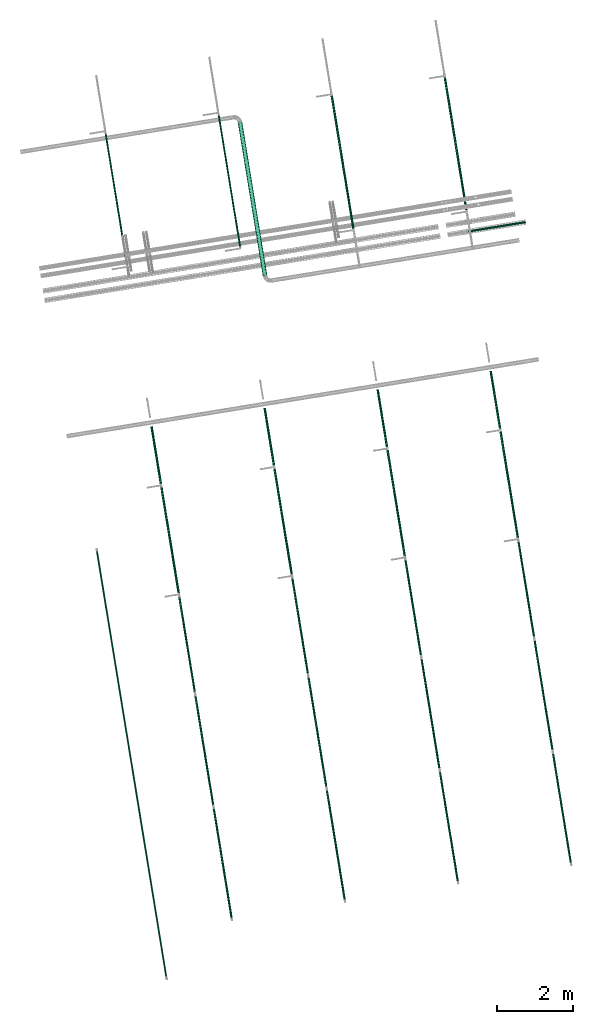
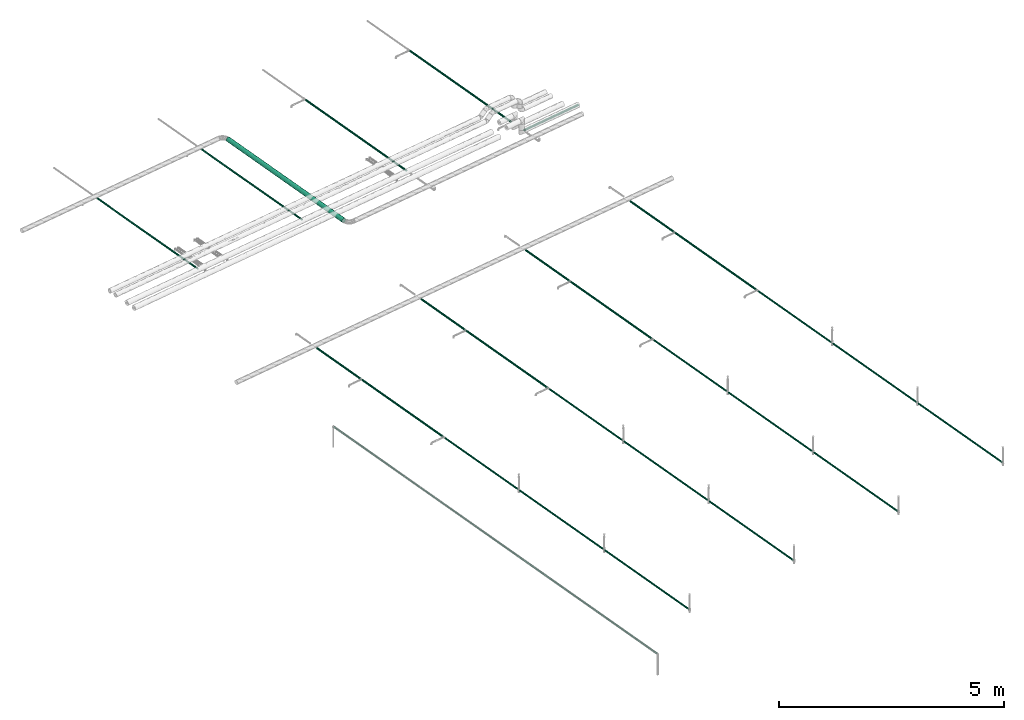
# One storey, part 18 of 56: 27 flow segments.
"""IFC2X3 building model written with IfcOpenShell, lengths in millimetres."""

import ifcopenshell
import ifcopenshell.guid

model = None  # the IFC model being written
_history = None  # IfcOwnerHistory: only IFC2X3 demands one
_inside = {}  # id of a spatial element -> (the spatial element, [elements in it])
_under = {}  # id of a project, library or spatial element -> (it, [spatial elements below it])
_declared = {}  # id of a project -> (the project, [libraries it declares])
_typed = {}  # id of a type object -> (the type object, [elements of that type])
_made_of = {}  # id of a material, layer set ... -> (it, [elements and type objects made of it])


def new_model(schema):
    """Start an empty IFC model of exactly this schema.

    Asked for "IFC4X3", IfcOpenShell would pick the latest addendum, in which some entities
    have other attributes; the version numbers below select the first issue.
    IFC2X3 requires an IfcOwnerHistory on every rooted entity: one is made here for all.
    """
    global model, _history
    if schema == "IFC4X3":
        model = ifcopenshell.file(schema_version=(4, 3, 0, 0))
    else:
        model = ifcopenshell.file(schema=schema)
    _inside.clear()
    _under.clear()
    _declared.clear()
    _typed.clear()
    _made_of.clear()
    _history = None
    if model.schema == "IFC2X3":
        org = make("IfcOrganization", Name="unknown")
        user = make(
            "IfcPersonAndOrganization",
            ThePerson=make("IfcPerson", FamilyName="unknown"),
            TheOrganization=org,
        )
        app = make(
            "IfcApplication",
            ApplicationDeveloper=org,
            Version="unknown",
            ApplicationFullName="unknown",
            ApplicationIdentifier="unknown",
        )
        _history = make(
            "IfcOwnerHistory",
            OwningUser=user,
            OwningApplication=app,
            ChangeAction="ADDED",
            CreationDate=0,
        )
    return model


def make(cls, **values):
    """One entity of the class cls with the attributes given. An attribute that is None is left unset."""
    return model.create_entity(
        cls, **{name: value for name, value in values.items() if value is not None}
    )


def entity(cls, *values):
    """Any entity or typed value of the class cls, its attributes in the order of the schema. None: left unset."""
    e = model.create_entity(cls)
    for i, value in enumerate(values):
        if value is not None:
            e[i] = value
    return e


def rooted(cls, **values):
    """An entity with a GlobalId (a new one), such as an element, a storey or a relation."""
    return make(cls, GlobalId=ifcopenshell.guid.new(), OwnerHistory=_history, **values)


def si_unit(unit_type, name, prefix=None):
    """IfcSIUnit, for example si_unit("LENGTHUNIT", "METRE", prefix="MILLI")."""
    return make("IfcSIUnit", UnitType=unit_type, Prefix=prefix, Name=name)


def converted_unit(unit_type, name, factor, base, dimensions=None, offset=None):
    """IfcConversionBasedUnit, such as the inch: factor (a typed value) times the base unit."""
    return make(
        "IfcConversionBasedUnit"
        if offset is None
        else "IfcConversionBasedUnitWithOffset",
        ConversionOffset=offset,
        Dimensions=None
        if dimensions is None
        else entity("IfcDimensionalExponents", *dimensions),
        UnitType=unit_type,
        Name=name,
        ConversionFactor=make(
            "IfcMeasureWithUnit", ValueComponent=factor, UnitComponent=base
        ),
    )


def derived_unit(unit_type, elements):
    """IfcDerivedUnit: a product of units, each with its exponent."""
    return make(
        "IfcDerivedUnit",
        Elements=[
            make("IfcDerivedUnitElement", Unit=unit, Exponent=power)
            for unit, power in elements
        ],
        UnitType=unit_type,
    )


def assignment(units):
    """IfcUnitAssignment: the units of a project."""
    return None if units is None else make("IfcUnitAssignment", Units=units)


def point(xyz):
    """IfcCartesianPoint."""
    return None if xyz is None else make("IfcCartesianPoint", Coordinates=xyz)


def direction(xyz):
    """IfcDirection."""
    return None if xyz is None else make("IfcDirection", DirectionRatios=xyz)


def frame(location, z_axis=None, x_axis=None):
    """IfcAxis2Placement3D, a coordinate frame: its origin and axes. An axis left out is left unset."""
    return make(
        "IfcAxis2Placement3D",
        Location=point(location),
        Axis=direction(z_axis),
        RefDirection=direction(x_axis),
    )


def frame_2d(location, x_axis=None):
    """IfcAxis2Placement2D, a coordinate frame in the plane: its origin and x axis."""
    return make(
        "IfcAxis2Placement2D", Location=point(location), RefDirection=direction(x_axis)
    )


def origin():
    """The frame at (0, 0, 0) with its axes left unset."""
    return frame((0.0, 0.0, 0.0))


def origin_with_axes():
    """The frame at (0, 0, 0) with the z axis (0, 0, 1) and the x axis (1, 0, 0) written out."""
    return frame((0.0, 0.0, 0.0), z_axis=(0.0, 0.0, 1.0), x_axis=(1.0, 0.0, 0.0))


def origin_2d_with_axis():
    """The frame at (0, 0) in the plane with the x axis (1, 0) written out."""
    return frame_2d((0.0, 0.0), x_axis=(1.0, 0.0))


def place(relative_to, where):
    """IfcLocalPlacement: puts the frame where relative to a parent placement (None: the world)."""
    return make(
        "IfcLocalPlacement", PlacementRelTo=relative_to, RelativePlacement=where
    )


def context(
    kind, dimensions, precision=None, world=None, true_north=None, identifier=None
):
    """IfcGeometricRepresentationContext, for example the 3D "Model" context."""
    return make(
        "IfcGeometricRepresentationContext",
        ContextIdentifier=identifier,
        ContextType=kind,
        CoordinateSpaceDimension=dimensions,
        Precision=precision,
        WorldCoordinateSystem=world,
        TrueNorth=true_north,
    )


def subcontext(parent, identifier, kind, view, scale=None):
    """IfcGeometricRepresentationSubContext, for example "Body" below "Model"."""
    return make(
        "IfcGeometricRepresentationSubContext",
        ContextIdentifier=identifier,
        ContextType=kind,
        ParentContext=parent,
        TargetScale=scale,
        TargetView=view,
    )


def project(units=None, contexts=None):
    """IfcProject with its units and contexts."""
    return rooted(
        "IfcProject",
        Name="project",
        RepresentationContexts=contexts,
        UnitsInContext=assignment(units),
    )


def spatial(cls, under=None, at=None, **own):
    """A site, building, storey or space (cls), placed at a placement, below another one or the project."""
    s = rooted(cls, ObjectPlacement=at, **own)
    if under is not None:
        _under.setdefault(under.id(), (under, []))[1].append(s)
    return s


def profile(cls, at=None, kind="AREA", **sizes):
    """A parametric profile (cls). Its sizes go by their IFC names, for example OverallWidth=200.0."""
    return make(cls, ProfileType=kind, Position=at, **sizes)


def circle(**sizes):
    """IfcCircleProfileDef."""
    return profile("IfcCircleProfileDef", **sizes)


def extrude(swept, where, along, depth):
    """IfcExtrudedAreaSolid: the profile swept, set in the frame where, extruded along a direction by depth."""
    return make(
        "IfcExtrudedAreaSolid",
        SweptArea=swept,
        Position=where,
        ExtrudedDirection=direction(along),
        Depth=depth,
    )


def shape(context_of_items, identifier, shape_type, items):
    """IfcShapeRepresentation: the items that make up one representation, for example the "Body"."""
    return make(
        "IfcShapeRepresentation",
        ContextOfItems=context_of_items,
        RepresentationIdentifier=identifier,
        RepresentationType=shape_type,
        Items=items,
    )


def material(Name=None, Category=None):
    """IfcMaterial."""
    return make("IfcMaterial", Name=Name, Category=Category)


def made_of(thing, what):
    """Note that an element or type object is made of a material, layer set ...; save() writes the relation."""
    if what is not None:
        _made_of.setdefault(what.id(), (what, []))[1].append(thing)
    return thing


def type_object(cls, material=None, **own):
    """A type object (cls), such as IfcWallType, which elements share."""
    return made_of(rooted(cls, **own), material)


def element(
    cls,
    number,
    at=None,
    inside=None,
    cuts=None,
    type_object=None,
    material=None,
    context=None,
    identifier="Body",
    shape_type=None,
    held_by="IfcProductDefinitionShape",
    body=None,
    shapes=None,
    **own,
):
    """One element of the class cls, such as IfcWall. Its Tag is "e" and its number.

    at: its placement. inside: the storey or other place that contains it. cuts: it is an
    opening in that element (IfcRelVoidsElement). A single representation is given by context,
    identifier, shape_type and body (its items); several are given by shapes. held_by: the class
    of the entity that holds the representations. save() writes the other relations.
    """
    e = rooted(cls, Tag="e%d" % number, ObjectPlacement=at, **own)
    if body is not None:
        shapes = [shape(context, identifier, shape_type, body)]
    if shapes is not None:
        e.Representation = make(held_by, Representations=shapes)
    if inside is not None:
        _inside.setdefault(inside.id(), (inside, []))[1].append(e)
    if cuts is not None:
        rooted(
            "IfcRelVoidsElement", RelatingBuildingElement=cuts, RelatedOpeningElement=e
        )
    if type_object is not None:
        _typed.setdefault(type_object.id(), (type_object, []))[1].append(e)
    return made_of(e, material)


def aggregate(whole, parts):
    """IfcRelAggregates: a whole, such as a stair, and the parts it consists of."""
    return rooted("IfcRelAggregates", RelatingObject=whole, RelatedObjects=parts)


def save(model, path):
    """Write the relations noted so far, then the file.

    IfcRelAggregates (storeys below a building ...), IfcRelContainedInSpatialStructure (elements
    in a storey), IfcRelDefinesByType, IfcRelAssociatesMaterial and IfcRelDeclares: one each for
    every whole, place, type object, material and project.
    """
    for whole, parts in _under.values():
        aggregate(whole, parts)
    for where, things in _inside.values():
        rooted(
            "IfcRelContainedInSpatialStructure",
            RelatedElements=things,
            RelatingStructure=where,
        )
    for kind, things in _typed.values():
        rooted("IfcRelDefinesByType", RelatedObjects=things, RelatingType=kind)
    for what, things in _made_of.values():
        rooted("IfcRelAssociatesMaterial", RelatedObjects=things, RelatingMaterial=what)
    for by, libraries in _declared.values():
        rooted("IfcRelDeclares", RelatingContext=by, RelatedDefinitions=libraries)
    model.write(path)


model = new_model("IFC2X3")

# Units and contexts
model_context = context("Model", 3, precision=0.01, world=origin(), true_north=direction((6.12323399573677e-17, 1.0)))
plan_context = context("Plan", 3, precision=1e-05, world=origin_with_axes())
body_context = subcontext(model_context, "Body", "Model", "MODEL_VIEW")
ifc_project = project(units=[converted_unit("PLANEANGLEUNIT", "DEGREE", entity("IfcPositiveLengthMeasure", 0.0174532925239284), si_unit("PLANEANGLEUNIT", "RADIAN"), dimensions=[0, 0, 0, 0, 0, 0, 0]), si_unit("AREAUNIT", "SQUARE_METRE"), si_unit("LENGTHUNIT", "METRE", prefix="MILLI"), si_unit("MASSUNIT", "GRAM", prefix="KILO"), si_unit("POWERUNIT", "WATT"), si_unit("PRESSUREUNIT", "PASCAL", prefix="KILO"), si_unit("FORCEUNIT", "NEWTON", prefix="KILO"), si_unit("ELECTRICVOLTAGEUNIT", "VOLT"), si_unit("ELECTRICCURRENTUNIT", "AMPERE"), si_unit("THERMODYNAMICTEMPERATUREUNIT", "DEGREE_CELSIUS"), si_unit("TIMEUNIT", "SECOND"), si_unit("VOLUMEUNIT", "CUBIC_METRE"), derived_unit("LINEARVELOCITYUNIT", [(si_unit("LENGTHUNIT", "METRE"), 1), (si_unit("TIMEUNIT", "SECOND"), -1)]), derived_unit("VOLUMETRICFLOWRATEUNIT", [(si_unit("VOLUMEUNIT", "CUBIC_METRE"), 1), (si_unit("TIMEUNIT", "SECOND"), -1)]), derived_unit("THERMALTRANSMITTANCEUNIT", [(si_unit("POWERUNIT", "WATT"), 1), (si_unit("THERMODYNAMICTEMPERATUREUNIT", "KELVIN"), -1), (si_unit("AREAUNIT", "SQUARE_METRE"), -1)]), derived_unit("SOUNDPRESSUREUNIT", [(si_unit("PRESSUREUNIT", "PASCAL"), 1)])], contexts=[model_context, plan_context])

# Site, building, storey
site_placement = place(None, frame((-3.09682673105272e-06, 1.93776733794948e-05, 0.0), z_axis=(0.0, 0.0, 1.0), x_axis=(-0.160806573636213, 0.986985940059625, 0.0)))
site = spatial("IfcSite", under=ifc_project, at=site_placement, Name="Default", CompositionType="ELEMENT")
building_placement = place(site_placement, frame((0.0, 0.0, 0.0), z_axis=(0.0, 0.0, 1.0), x_axis=(1.0, -2.77555756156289e-17, 0.0)))
building = spatial("IfcBuilding", under=site, at=building_placement, Name="Bygning (endres i Project Information)", CompositionType="ELEMENT")
storey_placement = place(building_placement, frame((0.0, 0.0, 51360.0000000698), z_axis=(0.0, 0.0, 1.0), x_axis=(1.0, -2.77555756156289e-17, 0.0)))
storey = spatial("IfcBuildingStorey", under=building, at=storey_placement, Name="H01-Nivå D+0,36", CompositionType="ELEMENT", Elevation=51360.0000000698)

# Flow segments
ifc_material_1 = material(Name="3320.001")
pipe_segment_type_1 = type_object("IfcPipeSegmentType", Name="Pipe Types:Stålrør sveist og gjenget", PredefinedType="NOTDEFINED", material=ifc_material_1)
flow_segment_1_placement = place(storey_placement, frame((0.0, 0.0, 0.0), z_axis=(0.0, 0.0, 1.0), x_axis=(1.0, -2.77555756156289e-17, 0.0)))
element("IfcFlowSegment", 1, at=flow_segment_1_placement, inside=storey, type_object=pipe_segment_type_1, Name="Pipe Types:Stålrør sveist og gjenget", ObjectType="Pipe Types:Stålrør sveist og gjenget", context=body_context, shape_type="SweptSolid", body=[
    extrude(circle(Radius=21.2000007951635, at=origin_2d_with_axis()), frame((997265.863254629, -395286.663841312, 3370.0), z_axis=(1.0, 0.0, 0.0), x_axis=(0.0, -1.0, 0.0)), (0.0, 0.0, 1.0), 2940.80000000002),
])
flow_segment_2_placement = place(storey_placement, frame((0.0, 0.0, 0.0), z_axis=(0.0, 0.0, 1.0), x_axis=(1.0, -2.77555756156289e-17, 0.0)))
element("IfcFlowSegment", 2, at=flow_segment_2_placement, inside=storey, type_object=pipe_segment_type_1, Name="Pipe Types:Stålrør sveist og gjenget", ObjectType="Pipe Types:Stålrør sveist og gjenget", context=body_context, shape_type="SweptSolid", body=[
    extrude(circle(Radius=21.2000007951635, at=origin_2d_with_axis()), frame((994265.86325463, -395286.663841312, 3370.0), z_axis=(1.0, 0.0, 0.0), x_axis=(0.0, 1.0, 0.0)), (0.0, 0.0, 1.0), 2940.79999999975),
])
flow_segment_3_placement = place(storey_placement, frame((0.0, 0.0, 0.0), z_axis=(0.0, 0.0, 1.0), x_axis=(1.0, -2.77555756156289e-17, 0.0)))
element("IfcFlowSegment", 3, at=flow_segment_3_placement, inside=storey, type_object=pipe_segment_type_1, Name="Pipe Types:Stålrør sveist og gjenget", ObjectType="Pipe Types:Stålrør sveist og gjenget", context=body_context, shape_type="SweptSolid", body=[
    extrude(circle(Radius=21.2000007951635, at=origin_2d_with_axis()), frame((1000265.86325463, -395286.663841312, 3370.0), z_axis=(1.0, 0.0, 0.0), x_axis=(0.0, -1.0, 0.0)), (0.0, 0.0, 1.0), 2568.47231975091),
])
flow_segment_4_placement = place(storey_placement, frame((0.0, 0.0, 0.0), z_axis=(0.0, 0.0, 1.0), x_axis=(1.0, -2.77555756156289e-17, 0.0)))
element("IfcFlowSegment", 4, at=flow_segment_4_placement, inside=storey, type_object=pipe_segment_type_1, Name="Pipe Types:Stålrør sveist og gjenget", ObjectType="Pipe Types:Stålrør sveist og gjenget", context=body_context, shape_type="SweptSolid", body=[
    extrude(circle(Radius=24.1499996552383, at=origin_2d_with_axis()), frame((1002899.53557438, -395286.663841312, 3370.0), z_axis=(1.0, 0.0, 0.0), x_axis=(0.0, -1.0, 0.0)), (0.0, 0.0, 1.0), 2846.7999999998),
])
flow_segment_5_placement = place(storey_placement, frame((0.0, 0.0, 0.0), z_axis=(0.0, 0.0, 1.0), x_axis=(1.0, -2.77555756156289e-17, 0.0)))
element("IfcFlowSegment", 5, at=flow_segment_5_placement, inside=storey, type_object=pipe_segment_type_1, Name="Pipe Types:Stålrør sveist og gjenget", ObjectType="Pipe Types:Stålrør sveist og gjenget", context=body_context, shape_type="SweptSolid", body=[
    extrude(circle(Radius=24.1499996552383, at=origin_2d_with_axis()), frame((1005791.53557438, -395286.663841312, 3370.0), z_axis=(1.0, 0.0, 0.0), x_axis=(0.0, -1.0, 0.0)), (0.0, 0.0, 1.0), 1537.36245727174),
])
flow_segment_6_placement = place(storey_placement, frame((0.0, 0.0, 0.0), z_axis=(0.0, 0.0, 1.0), x_axis=(1.0, -2.77555756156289e-17, 0.0)))
element("IfcFlowSegment", 6, at=flow_segment_6_placement, inside=storey, type_object=pipe_segment_type_1, Name="Pipe Types:Stålrør sveist og gjenget", ObjectType="Pipe Types:Stålrør sveist og gjenget", context=body_context, shape_type="SweptSolid", body=[
    extrude(circle(Radius=21.2000007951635, at=origin_2d_with_axis()), frame((997265.863254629, -392286.663841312, 3370.0), z_axis=(1.0, 0.0, 0.0), x_axis=(0.0, -1.0, 0.0)), (0.0, 0.0, 1.0), 2940.80000000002),
])
flow_segment_7_placement = place(storey_placement, frame((0.0, 0.0, 0.0), z_axis=(0.0, 0.0, 1.0), x_axis=(1.0, -2.77555756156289e-17, 0.0)))
element("IfcFlowSegment", 7, at=flow_segment_7_placement, inside=storey, type_object=pipe_segment_type_1, Name="Pipe Types:Stålrør sveist og gjenget", ObjectType="Pipe Types:Stålrør sveist og gjenget", context=body_context, shape_type="SweptSolid", body=[
    extrude(circle(Radius=21.2000007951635, at=origin_2d_with_axis()), frame((994265.86325463, -392286.663841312, 3370.0), z_axis=(1.0, 0.0, 0.0), x_axis=(0.0, 1.0, 0.0)), (0.0, 0.0, 1.0), 2940.79999999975),
])
flow_segment_8_placement = place(storey_placement, frame((0.0, 0.0, 0.0), z_axis=(0.0, 0.0, 1.0), x_axis=(1.0, -2.77555756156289e-17, 0.0)))
element("IfcFlowSegment", 8, at=flow_segment_8_placement, inside=storey, type_object=pipe_segment_type_1, Name="Pipe Types:Stålrør sveist og gjenget", ObjectType="Pipe Types:Stålrør sveist og gjenget", context=body_context, shape_type="SweptSolid", body=[
    extrude(circle(Radius=21.2000007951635, at=origin_2d_with_axis()), frame((1000265.86325463, -392286.663841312, 3370.0), z_axis=(1.0, 0.0, 0.0), x_axis=(0.0, -1.0, 0.0)), (0.0, 0.0, 1.0), 2568.47231975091),
])
flow_segment_9_placement = place(storey_placement, frame((0.0, 0.0, 0.0), z_axis=(0.0, 0.0, 1.0), x_axis=(1.0, -2.77555756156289e-17, 0.0)))
element("IfcFlowSegment", 9, at=flow_segment_9_placement, inside=storey, type_object=pipe_segment_type_1, Name="Pipe Types:Stålrør sveist og gjenget", ObjectType="Pipe Types:Stålrør sveist og gjenget", context=body_context, shape_type="SweptSolid", body=[
    extrude(circle(Radius=24.1499996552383, at=origin_2d_with_axis()), frame((1002899.53557438, -392286.663841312, 3370.0), z_axis=(1.0, 0.0, 0.0), x_axis=(0.0, -1.0, 0.0)), (0.0, 0.0, 1.0), 2846.7999999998),
])
flow_segment_10_placement = place(storey_placement, frame((0.0, 0.0, 0.0), z_axis=(0.0, 0.0, 1.0), x_axis=(1.0, -2.77555756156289e-17, 0.0)))
element("IfcFlowSegment", 10, at=flow_segment_10_placement, inside=storey, type_object=pipe_segment_type_1, Name="Pipe Types:Stålrør sveist og gjenget", ObjectType="Pipe Types:Stålrør sveist og gjenget", context=body_context, shape_type="SweptSolid", body=[
    extrude(circle(Radius=24.1499996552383, at=origin_2d_with_axis()), frame((1005791.53557438, -392286.663841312, 3370.0), z_axis=(1.0, 0.0, 0.0), x_axis=(0.0, -1.0, 0.0)), (0.0, 0.0, 1.0), 1537.36245727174),
])
flow_segment_11_placement = place(storey_placement, frame((0.0, 0.0, 0.0), z_axis=(0.0, 0.0, 1.0), x_axis=(1.0, -2.77555756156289e-17, 0.0)))
element("IfcFlowSegment", 11, at=flow_segment_11_placement, inside=storey, type_object=pipe_segment_type_1, Name="Pipe Types:Stålrør sveist og gjenget", ObjectType="Pipe Types:Stålrør sveist og gjenget", context=body_context, shape_type="SweptSolid", body=[
    extrude(circle(Radius=21.2000007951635, at=origin_2d_with_axis()), frame((997265.863254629, -389286.663841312, 3370.0), z_axis=(1.0, 0.0, 0.0), x_axis=(0.0, -1.0, 0.0)), (0.0, 0.0, 1.0), 2940.80000000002),
])
flow_segment_12_placement = place(storey_placement, frame((0.0, 0.0, 0.0), z_axis=(0.0, 0.0, 1.0), x_axis=(1.0, -2.77555756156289e-17, 0.0)))
element("IfcFlowSegment", 12, at=flow_segment_12_placement, inside=storey, type_object=pipe_segment_type_1, Name="Pipe Types:Stålrør sveist og gjenget", ObjectType="Pipe Types:Stålrør sveist og gjenget", context=body_context, shape_type="SweptSolid", body=[
    extrude(circle(Radius=21.2000007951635, at=origin_2d_with_axis()), frame((994265.86325463, -389286.663841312, 3370.0), z_axis=(1.0, 0.0, 0.0), x_axis=(0.0, 1.0, 0.0)), (0.0, 0.0, 1.0), 2940.79999999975),
])
flow_segment_13_placement = place(storey_placement, frame((0.0, 0.0, 0.0), z_axis=(0.0, 0.0, 1.0), x_axis=(1.0, -2.77555756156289e-17, 0.0)))
element("IfcFlowSegment", 13, at=flow_segment_13_placement, inside=storey, type_object=pipe_segment_type_1, Name="Pipe Types:Stålrør sveist og gjenget", ObjectType="Pipe Types:Stålrør sveist og gjenget", context=body_context, shape_type="SweptSolid", body=[
    extrude(circle(Radius=21.2000007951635, at=origin_2d_with_axis()), frame((1000265.86325463, -389286.663841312, 3370.0), z_axis=(1.0, 0.0, 0.0), x_axis=(0.0, -1.0, 0.0)), (0.0, 0.0, 1.0), 2568.47231975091),
])
flow_segment_14_placement = place(storey_placement, frame((0.0, 0.0, 0.0), z_axis=(0.0, 0.0, 1.0), x_axis=(1.0, -2.77555756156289e-17, 0.0)))
element("IfcFlowSegment", 14, at=flow_segment_14_placement, inside=storey, type_object=pipe_segment_type_1, Name="Pipe Types:Stålrør sveist og gjenget", ObjectType="Pipe Types:Stålrør sveist og gjenget", context=body_context, shape_type="SweptSolid", body=[
    extrude(circle(Radius=24.1499996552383, at=origin_2d_with_axis()), frame((1002899.53557438, -389286.663841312, 3370.0), z_axis=(1.0, 0.0, 0.0), x_axis=(0.0, -1.0, 0.0)), (0.0, 0.0, 1.0), 2846.7999999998),
])
flow_segment_15_placement = place(storey_placement, frame((0.0, 0.0, 0.0), z_axis=(0.0, 0.0, 1.0), x_axis=(1.0, -2.77555756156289e-17, 0.0)))
element("IfcFlowSegment", 15, at=flow_segment_15_placement, inside=storey, type_object=pipe_segment_type_1, Name="Pipe Types:Stålrør sveist og gjenget", ObjectType="Pipe Types:Stålrør sveist og gjenget", context=body_context, shape_type="SweptSolid", body=[
    extrude(circle(Radius=24.1499996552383, at=origin_2d_with_axis()), frame((1005791.53557438, -389286.663841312, 3370.0), z_axis=(1.0, 0.0, 0.0), x_axis=(0.0, -1.0, 0.0)), (0.0, 0.0, 1.0), 1537.36245727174),
])
flow_segment_16_placement = place(storey_placement, frame((0.0, 0.0, 0.0), z_axis=(0.0, 0.0, 1.0), x_axis=(1.0, -2.77555756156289e-17, 0.0)))
element("IfcFlowSegment", 16, at=flow_segment_16_placement, inside=storey, type_object=pipe_segment_type_1, Name="Pipe Types:Stålrør sveist og gjenget", ObjectType="Pipe Types:Stålrør sveist og gjenget", context=body_context, shape_type="SweptSolid", body=[
    extrude(circle(Radius=21.2000007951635, at=origin_2d_with_axis()), frame((997265.863254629, -386286.663841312, 3370.0), z_axis=(1.0, 0.0, 0.0), x_axis=(0.0, -1.0, 0.0)), (0.0, 0.0, 1.0), 2940.80000000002),
])
flow_segment_17_placement = place(storey_placement, frame((0.0, 0.0, 0.0), z_axis=(0.0, 0.0, 1.0), x_axis=(1.0, -2.77555756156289e-17, 0.0)))
element("IfcFlowSegment", 17, at=flow_segment_17_placement, inside=storey, type_object=pipe_segment_type_1, Name="Pipe Types:Stålrør sveist og gjenget", ObjectType="Pipe Types:Stålrør sveist og gjenget", context=body_context, shape_type="SweptSolid", body=[
    extrude(circle(Radius=21.2000007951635, at=origin_2d_with_axis()), frame((994265.86325463, -386286.663841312, 3370.0), z_axis=(1.0, 0.0, 0.0), x_axis=(0.0, 1.0, 0.0)), (0.0, 0.0, 1.0), 2940.79999999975),
])
flow_segment_18_placement = place(storey_placement, frame((0.0, 0.0, 0.0), z_axis=(0.0, 0.0, 1.0), x_axis=(1.0, -2.77555756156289e-17, 0.0)))
element("IfcFlowSegment", 18, at=flow_segment_18_placement, inside=storey, type_object=pipe_segment_type_1, Name="Pipe Types:Stålrør sveist og gjenget", ObjectType="Pipe Types:Stålrør sveist og gjenget", context=body_context, shape_type="SweptSolid", body=[
    extrude(circle(Radius=21.2000007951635, at=origin_2d_with_axis()), frame((1000265.86325463, -386286.663841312, 3370.0), z_axis=(1.0, 0.0, 0.0), x_axis=(0.0, -1.0, 0.0)), (0.0, 0.0, 1.0), 2568.47231975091),
])
flow_segment_19_placement = place(storey_placement, frame((0.0, 0.0, 0.0), z_axis=(0.0, 0.0, 1.0), x_axis=(1.0, -2.77555756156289e-17, 0.0)))
element("IfcFlowSegment", 19, at=flow_segment_19_placement, inside=storey, type_object=pipe_segment_type_1, Name="Pipe Types:Stålrør sveist og gjenget", ObjectType="Pipe Types:Stålrør sveist og gjenget", context=body_context, shape_type="SweptSolid", body=[
    extrude(circle(Radius=24.1499996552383, at=origin_2d_with_axis()), frame((1002899.53557438, -386286.663841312, 3370.0), z_axis=(1.0, 0.0, 0.0), x_axis=(0.0, -1.0, 0.0)), (0.0, 0.0, 1.0), 2846.7999999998),
])
flow_segment_20_placement = place(storey_placement, frame((0.0, 0.0, 0.0), z_axis=(0.0, 0.0, 1.0), x_axis=(1.0, -2.77555756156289e-17, 0.0)))
element("IfcFlowSegment", 20, at=flow_segment_20_placement, inside=storey, type_object=pipe_segment_type_1, Name="Pipe Types:Stålrør sveist og gjenget", ObjectType="Pipe Types:Stålrør sveist og gjenget", context=body_context, shape_type="SweptSolid", body=[
    extrude(circle(Radius=24.1499996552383, at=origin_2d_with_axis()), frame((1005791.53557438, -386286.663841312, 3370.0), z_axis=(1.0, 0.0, 0.0), x_axis=(0.0, -1.0, 0.0)), (0.0, 0.0, 1.0), 1537.36245727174),
])
flow_segment_21_placement = place(storey_placement, frame((0.0, 0.0, 0.0), z_axis=(0.0, 0.0, 1.0), x_axis=(1.0, -2.77555756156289e-17, 0.0)))
element("IfcFlowSegment", 21, at=flow_segment_21_placement, inside=storey, type_object=pipe_segment_type_1, Name="Pipe Types:Stålrør sveist og gjenget", ObjectType="Pipe Types:Stålrør sveist og gjenget", context=body_context, shape_type="SweptSolid", body=[
    extrude(circle(Radius=57.1500016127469, at=origin_2d_with_axis()), frame((1010753.2702348, -389854.90511076, 3400.0), z_axis=(1.0, 0.0, 0.0), x_axis=(0.0, -1.0, 0.0)), (0.0, 0.0, 1.0), 4070.00000000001),
])
flow_segment_22_placement = place(storey_placement, frame((0.0, 0.0, 0.0), z_axis=(0.0, 0.0, 1.0), x_axis=(1.0, -2.77555756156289e-17, 0.0)))
element("IfcFlowSegment", 22, at=flow_segment_22_placement, inside=storey, type_object=pipe_segment_type_1, Name="Pipe Types:Stålrør sveist og gjenget", ObjectType="Pipe Types:Stålrør sveist og gjenget", context=body_context, shape_type="SweptSolid", body=[
    extrude(circle(Radius=24.1499996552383, at=origin_2d_with_axis()), frame((1011581.53557438, -395336.905112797, 3200.0), z_axis=(1.0, 0.0, 0.0), x_axis=(0.0, 1.0, 0.0)), (0.0, 0.0, 1.0), 3554.80000000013),
])
flow_segment_23_placement = place(storey_placement, frame((0.0, 0.0, 0.0), z_axis=(0.0, 0.0, 1.0), x_axis=(1.0, -2.77555756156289e-17, 0.0)))
element("IfcFlowSegment", 23, at=flow_segment_23_placement, inside=storey, type_object=pipe_segment_type_1, Name="Pipe Types:Stålrør sveist og gjenget", ObjectType="Pipe Types:Stålrør sveist og gjenget", context=body_context, shape_type="SweptSolid", body=[
    extrude(circle(Radius=24.1499996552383, at=origin_2d_with_axis()), frame((1011581.53557438, -392336.905112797, 3200.0), z_axis=(1.0, 0.0, 0.0), x_axis=(0.0, 1.0, 0.0)), (0.0, 0.0, 1.0), 3554.80000000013),
])
flow_segment_24_placement = place(storey_placement, frame((0.0, 0.0, 0.0), z_axis=(0.0, 0.0, 1.0), x_axis=(1.0, -2.77555756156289e-17, 0.0)))
element("IfcFlowSegment", 24, at=flow_segment_24_placement, inside=storey, type_object=pipe_segment_type_1, Name="Pipe Types:Stålrør sveist og gjenget", ObjectType="Pipe Types:Stålrør sveist og gjenget", context=body_context, shape_type="SweptSolid", body=[
    extrude(circle(Radius=16.8500004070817, at=origin_2d_with_axis()), frame((1011582.83557438, -389333.90511076, 3200.0), z_axis=(1.0, 0.0, 0.0), x_axis=(0.0, 1.0, 0.0)), (0.0, 0.0, 1.0), 3534.83333333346),
])
flow_segment_25_placement = place(storey_placement, frame((0.0, 0.0, 0.0), z_axis=(0.0, 0.0, 1.0), x_axis=(1.0, -2.77555756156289e-17, 0.0)))
element("IfcFlowSegment", 25, at=flow_segment_25_placement, inside=storey, type_object=pipe_segment_type_1, Name="Pipe Types:Stålrør sveist og gjenget", ObjectType="Pipe Types:Stålrør sveist og gjenget", context=body_context, shape_type="SweptSolid", body=[
    extrude(circle(Radius=16.8500004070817, at=origin_2d_with_axis()), frame((1011582.83557438, -386333.90511076, 3200.0), z_axis=(1.0, 0.0, 0.0), x_axis=(0.0, 1.0, 0.0)), (0.0, 0.0, 1.0), 3534.83333333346),
])
ifc_material_2 = material(Name="3200.005 Tur")
pipe_segment_type_2 = type_object("IfcPipeSegmentType", Name="Pipe Types:Pressfittingssystem MM", PredefinedType="NOTDEFINED", material=ifc_material_2)
flow_segment_26_placement = place(storey_placement, frame((0.0, 0.0, 0.0), z_axis=(0.0, 0.0, 1.0), x_axis=(1.0, -2.77555756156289e-17, 0.0)))
element("IfcFlowSegment", 26, at=flow_segment_26_placement, inside=storey, type_object=pipe_segment_type_2, Name="Pipe Types:Pressfittingssystem MM", ObjectType="Pipe Types:Pressfittingssystem MM", context=body_context, shape_type="SweptSolid", body=[
    extrude(circle(Radius=27.00000004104, at=origin_2d_with_axis()), frame((1011038.43684281, -396820.257301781, 3300.0), z_axis=(0.0, 1.0, 0.0), x_axis=(-1.0, 0.0, 0.0)), (0.0, 0.0, 1.0), 1563.49999999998),
])
ifc_material_3 = material(Name="3103.001 KV")
pipe_segment_type_3 = type_object("IfcPipeSegmentType", Name="Pipe Types:Kobberrør", PredefinedType="NOTDEFINED", material=ifc_material_3)
flow_segment_27_placement = place(storey_placement, frame((0.0, 0.0, 0.0), z_axis=(0.0, 0.0, 1.0), x_axis=(1.0, -2.77555756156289e-17, 0.0)))
element("IfcFlowSegment", 27, at=flow_segment_27_placement, inside=storey, type_object=pipe_segment_type_3, Name="Pipe Types:Kobberrør", ObjectType="Pipe Types:Kobberrør", context=body_context, shape_type="SweptSolid", body=[
    extrude(circle(Radius=14.00000002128, at=origin_2d_with_axis()), frame((993023.111795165, -384350.157958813, 3700.0), z_axis=(1.0, 0.0, 0.0), x_axis=(0.0, 1.0, 0.0)), (0.0, 0.0, 1.0), 11332.0),
])

save(model, "model.ifc")
